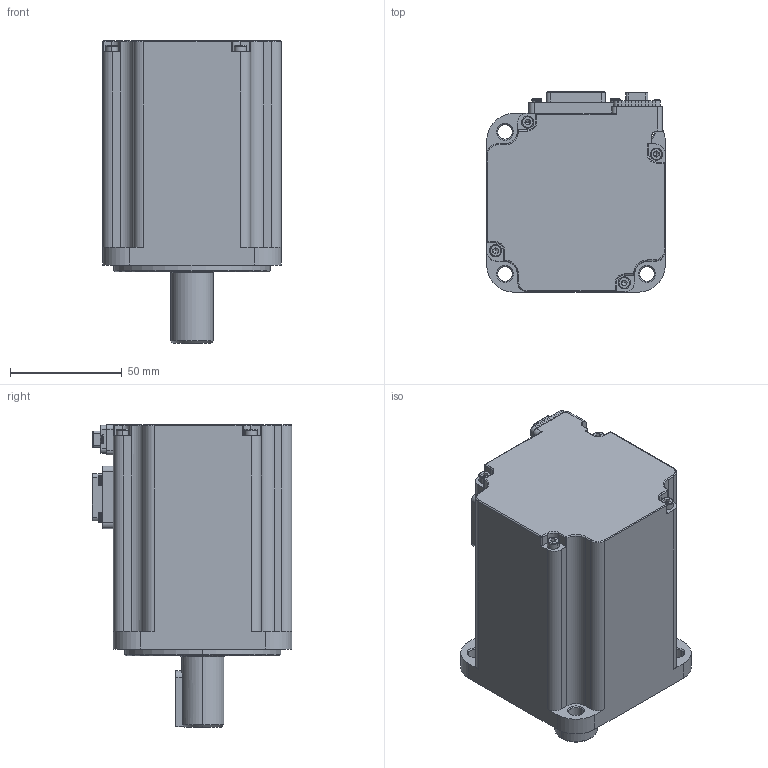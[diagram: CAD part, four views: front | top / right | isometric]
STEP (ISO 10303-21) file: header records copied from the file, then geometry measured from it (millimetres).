
FILE_DESCRIPTION (( 'STEP AP214' ), '1' );
FILE_NAME ('307090505SS£¨SMK80S-0075-30SAK-5DKA£©.STEP', '2024-03-29T12:29:45', ( 'kinavo-1' ), ( '' ), 'SwSTEP 2.0', 'SolidWorks 2023', '' );
FILE_SCHEMA (( 'AUTOMOTIVE_DESIGN' ));
Length unit declared in the file: millimetre
Products named in the file (1): 307090505SS（SMK80S-0075-30SAK-5DKA）
Bounding box: 80 x 89.6 x 135.5 mm (x, y, z)
Volume: 593888.4 mm3; surface area: 56442.7 mm2
Topology: 2 solids, 36 shells, 1691 faces, 4248 edges, 2651 vertices
Faces by surface type: plane 745, cylinder 619, cone 142, torus 124, bspline 34, sphere 27
Entity records: 57249 total; most frequent: CARTESIAN_POINT 16615, DIRECTION 8688, ORIENTED_EDGE 8374, EDGE_CURVE 4187, AXIS2_PLACEMENT_3D 3187, VERTEX_POINT 2643, LINE 2314, VECTOR 2314
